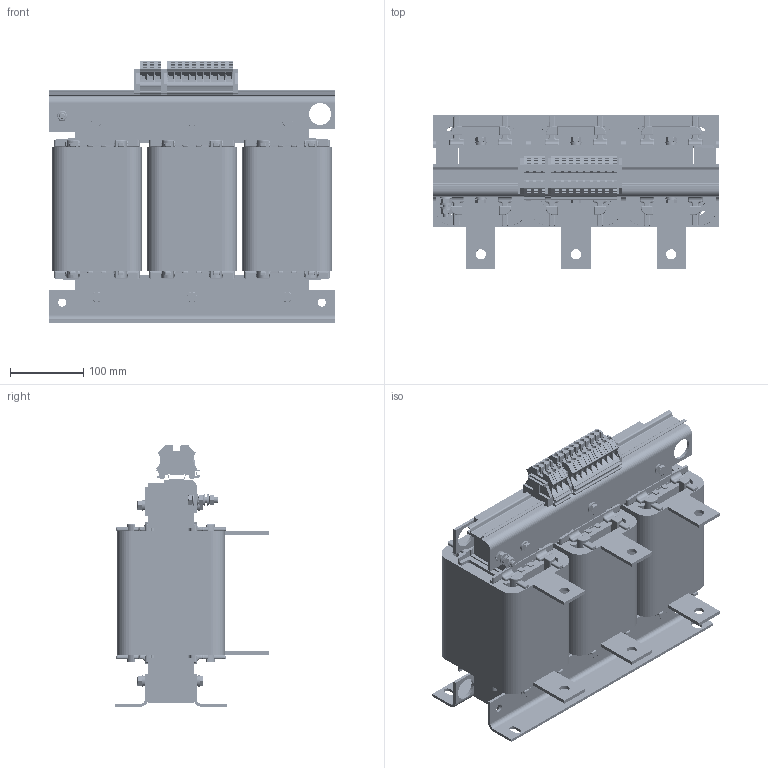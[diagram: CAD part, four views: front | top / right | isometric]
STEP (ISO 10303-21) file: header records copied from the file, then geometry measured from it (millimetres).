
FILE_DESCRIPTION((''),'2;1');
FILE_NAME('C:\Users\fp1\CAD-Daten\DTZ\DTZ8,0 230 18.stp','2014-07-02T11:56:44',('FP1'),(''),'Autodesk Inventor 2013','Autodesk Inventor 2013','');
FILE_SCHEMA(('AUTOMOTIVE_DESIGN { 1 0 10303 214 1 1 1 1 }'));
Length unit declared in the file: millimetre
Products named in the file (1): Bauteil74
Bounding box: 390 x 210.55 x 357 mm (x, y, z)
Volume: 11397894.3 mm3; surface area: 1485040 mm2
Topology: 4 solids, 4 shells, 9488 faces, 26785 edges, 17268 vertices
Faces by surface type: plane 7169, cylinder 1716, bspline 188, torus 170, sphere 168, cone 77
Full cylindrical faces by diameter (mm): 0.5 x9, 2.95 x72, 6.32 x24, 8 x3, 8.3 x2, 8.4 x2, 11 x3, 11.63 x7, 14 x18, 16 x14, 30 x4
Entity records: 306293 total; most frequent: CARTESIAN_POINT 63733, ORIENTED_EDGE 52494, DIRECTION 47036, EDGE_CURVE 26247, VECTOR 19772, LINE 19772, VERTEX_POINT 17079, AXIS2_PLACEMENT_3D 13632
